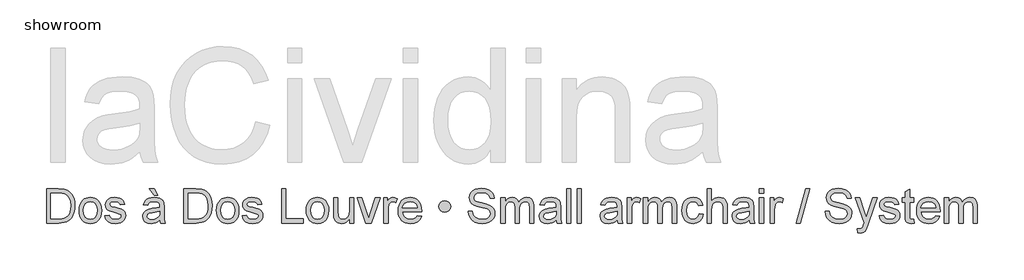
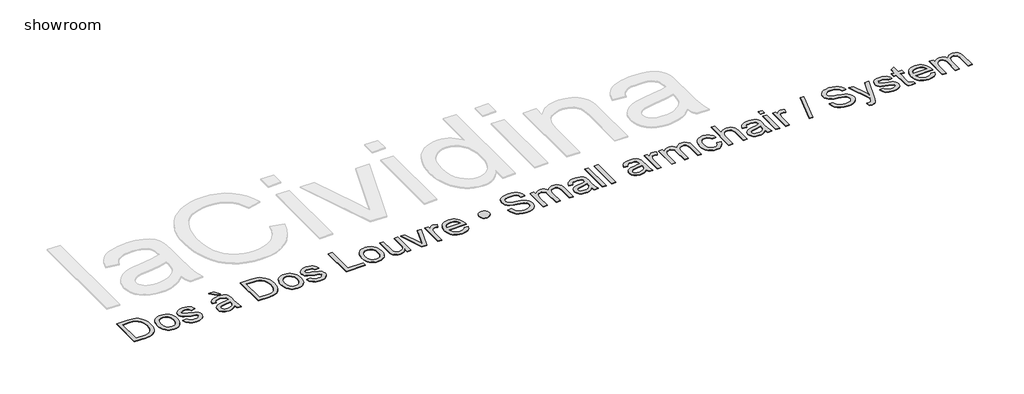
# One storey, part 2 of 2: 1 proxy.
"""IFC4 building model written with IfcOpenShell, lengths in millimetres."""

import ifcopenshell
import ifcopenshell.guid

model = None  # the IFC model being written
_history = None  # IfcOwnerHistory: only IFC2X3 demands one
_inside = {}  # id of a spatial element -> (the spatial element, [elements in it])
_under = {}  # id of a project, library or spatial element -> (it, [spatial elements below it])
_declared = {}  # id of a project -> (the project, [libraries it declares])
_typed = {}  # id of a type object -> (the type object, [elements of that type])
_made_of = {}  # id of a material, layer set ... -> (it, [elements and type objects made of it])


def new_model(schema):
    """Start an empty IFC model of exactly this schema.

    Asked for "IFC4X3", IfcOpenShell would pick the latest addendum, in which some entities
    have other attributes; the version numbers below select the first issue.
    IFC2X3 requires an IfcOwnerHistory on every rooted entity: one is made here for all.
    """
    global model, _history
    if schema == "IFC4X3":
        model = ifcopenshell.file(schema_version=(4, 3, 0, 0))
    else:
        model = ifcopenshell.file(schema=schema)
    _inside.clear()
    _under.clear()
    _declared.clear()
    _typed.clear()
    _made_of.clear()
    _history = None
    if model.schema == "IFC2X3":
        org = make("IfcOrganization", Name="unknown")
        user = make(
            "IfcPersonAndOrganization",
            ThePerson=make("IfcPerson", FamilyName="unknown"),
            TheOrganization=org,
        )
        app = make(
            "IfcApplication",
            ApplicationDeveloper=org,
            Version="unknown",
            ApplicationFullName="unknown",
            ApplicationIdentifier="unknown",
        )
        _history = make(
            "IfcOwnerHistory",
            OwningUser=user,
            OwningApplication=app,
            ChangeAction="ADDED",
            CreationDate=0,
        )
    return model


def make(cls, **values):
    """One entity of the class cls with the attributes given. An attribute that is None is left unset."""
    return model.create_entity(
        cls, **{name: value for name, value in values.items() if value is not None}
    )


def rooted(cls, **values):
    """An entity with a GlobalId (a new one), such as an element, a storey or a relation."""
    return make(cls, GlobalId=ifcopenshell.guid.new(), OwnerHistory=_history, **values)


def si_unit(unit_type, name, prefix=None):
    """IfcSIUnit, for example si_unit("LENGTHUNIT", "METRE", prefix="MILLI")."""
    return make("IfcSIUnit", UnitType=unit_type, Prefix=prefix, Name=name)


def assignment(units):
    """IfcUnitAssignment: the units of a project."""
    return None if units is None else make("IfcUnitAssignment", Units=units)


def point(xyz):
    """IfcCartesianPoint."""
    return None if xyz is None else make("IfcCartesianPoint", Coordinates=xyz)


def direction(xyz):
    """IfcDirection."""
    return None if xyz is None else make("IfcDirection", DirectionRatios=xyz)


def frame(location, z_axis=None, x_axis=None):
    """IfcAxis2Placement3D, a coordinate frame: its origin and axes. An axis left out is left unset."""
    return make(
        "IfcAxis2Placement3D",
        Location=point(location),
        Axis=direction(z_axis),
        RefDirection=direction(x_axis),
    )


def origin():
    """The frame at (0, 0, 0) with its axes left unset."""
    return frame((0.0, 0.0, 0.0))


def origin_with_axes():
    """The frame at (0, 0, 0) with the z axis (0, 0, 1) and the x axis (1, 0, 0) written out."""
    return frame((0.0, 0.0, 0.0), z_axis=(0.0, 0.0, 1.0), x_axis=(1.0, 0.0, 0.0))


def place(relative_to, where):
    """IfcLocalPlacement: puts the frame where relative to a parent placement (None: the world)."""
    return make(
        "IfcLocalPlacement", PlacementRelTo=relative_to, RelativePlacement=where
    )


def context(
    kind, dimensions, precision=None, world=None, true_north=None, identifier=None
):
    """IfcGeometricRepresentationContext, for example the 3D "Model" context."""
    return make(
        "IfcGeometricRepresentationContext",
        ContextIdentifier=identifier,
        ContextType=kind,
        CoordinateSpaceDimension=dimensions,
        Precision=precision,
        WorldCoordinateSystem=world,
        TrueNorth=true_north,
    )


def project(units=None, contexts=None):
    """IfcProject with its units and contexts."""
    return rooted(
        "IfcProject",
        Name="project",
        RepresentationContexts=contexts,
        UnitsInContext=assignment(units),
    )


def spatial(cls, under=None, at=None, **own):
    """A site, building, storey or space (cls), placed at a placement, below another one or the project."""
    s = rooted(cls, ObjectPlacement=at, **own)
    if under is not None:
        _under.setdefault(under.id(), (under, []))[1].append(s)
    return s


def polyline(points):
    """IfcPolyline through the points."""
    return make("IfcPolyline", Points=[point(p) for p in points])


def outline(outer, holes=None, kind="AREA"):
    """IfcArbitraryClosedProfileDef: a profile drawn as a closed curve; with holes, ...WithVoids."""
    if holes is None:
        return make("IfcArbitraryClosedProfileDef", ProfileType=kind, OuterCurve=outer)
    return make(
        "IfcArbitraryProfileDefWithVoids",
        ProfileType=kind,
        OuterCurve=outer,
        InnerCurves=holes,
    )


def extrude(swept, where, along, depth):
    """IfcExtrudedAreaSolid: the profile swept, set in the frame where, extruded along a direction by depth."""
    return make(
        "IfcExtrudedAreaSolid",
        SweptArea=swept,
        Position=where,
        ExtrudedDirection=direction(along),
        Depth=depth,
    )


def shape(context_of_items, identifier, shape_type, items):
    """IfcShapeRepresentation: the items that make up one representation, for example the "Body"."""
    return make(
        "IfcShapeRepresentation",
        ContextOfItems=context_of_items,
        RepresentationIdentifier=identifier,
        RepresentationType=shape_type,
        Items=items,
    )


def made_of(thing, what):
    """Note that an element or type object is made of a material, layer set ...; save() writes the relation."""
    if what is not None:
        _made_of.setdefault(what.id(), (what, []))[1].append(thing)
    return thing


def element(
    cls,
    number,
    at=None,
    inside=None,
    cuts=None,
    type_object=None,
    material=None,
    context=None,
    identifier="Body",
    shape_type=None,
    held_by="IfcProductDefinitionShape",
    body=None,
    shapes=None,
    **own,
):
    """One element of the class cls, such as IfcWall. Its Tag is "e" and its number.

    at: its placement. inside: the storey or other place that contains it. cuts: it is an
    opening in that element (IfcRelVoidsElement). A single representation is given by context,
    identifier, shape_type and body (its items); several are given by shapes. held_by: the class
    of the entity that holds the representations. save() writes the other relations.
    """
    e = rooted(cls, Tag="e%d" % number, ObjectPlacement=at, **own)
    if body is not None:
        shapes = [shape(context, identifier, shape_type, body)]
    if shapes is not None:
        e.Representation = make(held_by, Representations=shapes)
    if inside is not None:
        _inside.setdefault(inside.id(), (inside, []))[1].append(e)
    if cuts is not None:
        rooted(
            "IfcRelVoidsElement", RelatingBuildingElement=cuts, RelatedOpeningElement=e
        )
    if type_object is not None:
        _typed.setdefault(type_object.id(), (type_object, []))[1].append(e)
    return made_of(e, material)


def aggregate(whole, parts):
    """IfcRelAggregates: a whole, such as a stair, and the parts it consists of."""
    return rooted("IfcRelAggregates", RelatingObject=whole, RelatedObjects=parts)


def save(model, path):
    """Write the relations noted so far, then the file.

    IfcRelAggregates (storeys below a building ...), IfcRelContainedInSpatialStructure (elements
    in a storey), IfcRelDefinesByType, IfcRelAssociatesMaterial and IfcRelDeclares: one each for
    every whole, place, type object, material and project.
    """
    for whole, parts in _under.values():
        aggregate(whole, parts)
    for where, things in _inside.values():
        rooted(
            "IfcRelContainedInSpatialStructure",
            RelatedElements=things,
            RelatingStructure=where,
        )
    for kind, things in _typed.values():
        rooted("IfcRelDefinesByType", RelatedObjects=things, RelatingType=kind)
    for what, things in _made_of.values():
        rooted("IfcRelAssociatesMaterial", RelatedObjects=things, RelatingMaterial=what)
    for by, libraries in _declared.values():
        rooted("IfcRelDeclares", RelatingContext=by, RelatedDefinitions=libraries)
    model.write(path)


model = new_model("IFC4")

# Units and contexts
model_context = context("Model", 3, world=origin())
ifc_project = project(units=[si_unit("LENGTHUNIT", "METRE", prefix="MILLI")], contexts=[model_context])

# Site, building, storey
site = spatial("IfcSite", under=ifc_project)
building = spatial("IfcBuilding", under=site)
storey = spatial("IfcBuildingStorey", under=building, Name="showroom", Elevation=0.0)

# Proxy
placement = place(None, origin())
element("IfcBuildingElementProxy", 1, Name="300mm Arial", ObjectType="300mm Arial", at=placement, inside=storey, context=model_context, shape_type="SweptSolid", body=[
    extrude(outline(polyline([(-1990.3620976, 4160.1020807), (-1990.3620976, 4461.4710111), (-1886.3986458, 4461.4710111), (-1832.6142981, 4457.1300036), (-1808.5916038, 4448.7606882), (-1788.3213059, 4435.5721187), (-1767.4807909, 4412.6162822), (-1752.6367524, 4384.0686393), (-1743.7524022, 4350.4810132), (-1740.7909521, 4312.4052267), (-1742.795909, 4280.0592022), (-1748.8107796, 4251.5943329), (-1757.9710413, 4227.3601064), (-1769.4121713, 4207.7060108), (-1782.5823468, 4192.1905877), (-1796.9297446, 4180.3723786), (-1813.4016609, 4171.6075901), (-1832.9453919, 4165.2524286), (-1881.3954507, 4160.1020807), (-1990.3620976, 4160.1020807)]), holes=[polyline([(-1952.6909813, 4197.773197), (-1886.0307638, 4197.773197), (-1858.4580083, 4199.1343604), (-1837.5439168, 4203.2178505), (-1821.7617792, 4209.7845441), (-1809.5848852, 4218.5953179), (-1796.4974832, 4234.9016873), (-1786.6658369, 4256.0089168), (-1780.5130105, 4282.0089768), (-1778.4620684, 4312.9938379), (-1782.4811792, 4354.0494685), (-1794.5385116, 4384.3629449), (-1812.3531972, 4405.1850659), (-1833.6443677, 4417.7666301), (-1855.3126172, 4422.2915786), (-1887.0608334, 4423.7998948), (-1952.6909813, 4423.7998948), (-1952.6909813, 4197.773197)])]), origin_with_axes(), (0.0, 0.0, 1.0), 5.0),
    extrude(outline(polyline([(-1703.1198358, 4270.7609848), (-1701.0826893, 4299.4235908), (-1694.9712496, 4324.1222682), (-1684.7855169, 4344.8570172), (-1670.525491, 4361.6278376), (-1656.1688962, 4372.3469993), (-1640.3223792, 4380.0035433), (-1622.9859402, 4384.5974697), (-1604.1595791, 4386.1287785), (-1583.3765456, 4384.2640766), (-1564.5846735, 4378.6699711), (-1547.7839626, 4369.3464617), (-1532.974413, 4356.2935487), (-1520.8871902, 4339.9526903), (-1512.2534597, 4320.765345), (-1507.0732213, 4298.7315128), (-1505.3464752, 4273.8511936), (-1508.3998958, 4235.7938012), (-1517.5601574, 4206.8230941), (-1532.5605458, 4185.1272534), (-1553.1343464, 4168.8944604), (-1577.5709079, 4158.7685084), (-1604.1595791, 4155.3931911), (-1625.2461152, 4157.2509952), (-1644.2127313, 4162.8244074), (-1661.0594274, 4172.1134278), (-1675.7862036, 4185.1180563), (-1687.7446677, 4201.6175638), (-1696.2864277, 4221.3912211), (-1701.4114838, 4244.4390281), (-1703.1198358, 4270.7609848)]), holes=[polyline([(-1665.4487195, 4270.8345612), (-1661.0893179, 4236.7410973), (-1648.0111129, 4212.4516886), (-1628.3294262, 4197.9111527), (-1604.1595791, 4193.0643074), (-1580.1000966, 4197.9387439), (-1560.4551981, 4212.5620532), (-1547.3769931, 4237.1733587), (-1543.0175915, 4272.0117836), (-1547.4045843, 4305.1119661), (-1560.5655627, 4329.0702811), (-1580.2380524, 4343.6108169), (-1604.1595791, 4348.4576622), (-1628.3294262, 4343.629211), (-1648.0111129, 4329.1438575), (-1661.0893179, 4304.909631), (-1665.4487195, 4270.8345612)])]), origin_with_axes(), (0.0, 0.0, 1.0), 5.0),
    extrude(outline(polyline([(-1477.093138, 4226.0265342), (-1439.4220217, 4230.7354237), (-1433.4807274, 4214.6221924), (-1421.9844151, 4202.7763921), (-1404.8595082, 4195.4923286), (-1382.0324304, 4193.0643074), (-1359.4812641, 4195.2899935), (-1343.6255501, 4201.9670517), (-1334.2445592, 4211.6423482), (-1331.1175623, 4222.862749), (-1334.2629533, 4232.4644691), (-1343.6991265, 4239.7853208), (-1382.4738888, 4250.5274751), (-1439.2012925, 4268.958363), (-1453.5578873, 4278.2197923), (-1463.9597507, 4290.4794598), (-1470.278124, 4304.9556163), (-1472.3842484, 4320.8665126), (-1470.6919912, 4335.4622307), (-1465.6152197, 4348.9359088), (-1457.6137863, 4360.7541179), (-1447.1475436, 4370.3834291), (-1423.1984257, 4381.5302536), (-1390.7880219, 4386.1287785), (-1366.2686869, 4384.2801715), (-1344.9499253, 4378.7343504), (-1327.8066243, 4370.0339412), (-1315.8136713, 4358.7215699), (-1307.8674202, 4343.9603048), (-1302.864225, 4324.9132145), (-1340.5353414, 4320.204325), (-1345.2902161, 4332.0593223), (-1354.6987982, 4340.9896577), (-1368.8530579, 4346.5906611), (-1387.8449659, 4348.4576622), (-1409.4764273, 4346.6734345), (-1423.8974015, 4341.3207515), (-1432.0091995, 4333.5952296), (-1434.7131321, 4324.6924853), (-1430.2249718, 4313.7296019), (-1416.1718796, 4305.4154688), (-1383.7246876, 4297.3956413), (-1328.4320237, 4279.6637291), (-1313.8271085, 4271.1840491), (-1302.7538605, 4259.5773722), (-1295.7732996, 4244.8069101), (-1293.446446, 4226.8358746), (-1296.1779698, 4208.2578338), (-1304.3725412, 4190.7834391), (-1317.7174606, 4175.7830507), (-1335.9000282, 4164.6270292), (-1357.8625833, 4157.7016507), (-1382.5474652, 4155.3931911), (-1420.5312812, 4159.8445633), (-1448.2511895, 4173.1986797), (-1466.7556539, 4195.3083876), (-1477.093138, 4226.0265342)])), origin_with_axes(), (0.0, 0.0, 1.0), 5.0),
    extrude(outline(polyline([(-1010.9130737, 4404.9643367), (-1039.1664109, 4404.9643367), (-1086.2553063, 4461.4710111), (-1039.1664109, 4461.4710111), (-1010.9130737, 4404.9643367)])), origin_with_axes(), (0.0, 0.0, 1.0), 5.0),
    extrude(outline(polyline([(-992.0775155, 4188.3554179), (-1010.0761421, 4172.9227682), (-1028.6081976, 4162.8244074), (-1048.0967463, 4157.2509952), (-1068.9648525, 4155.3931911), (-1100.4463543, 4159.8629574), (-1123.6689052, 4173.2722561), (-1137.9887119, 4193.6345245), (-1142.7619807, 4218.9631999), (-1140.959359, 4234.5797906), (-1135.5514936, 4248.7616415), (-1127.2097694, 4260.9017474), (-1116.6055709, 4270.3931028), (-1090.2284318, 4282.7539379), (-1057.6340871, 4288.4193206), (-1019.1168422, 4294.3790089), (-992.2982447, 4301.3687668), (-992.0775155, 4309.7564763), (-994.6710836, 4326.5686835), (-1002.4517878, 4337.5683551), (-1019.8526062, 4345.7353354), (-1044.0960296, 4348.4576622), (-1066.5368313, 4346.6458434), (-1082.2086043, 4341.2103869), (-1092.8955763, 4331.1580114), (-1100.3819749, 4315.4954354), (-1138.0530912, 4320.204325), (-1131.5139887, 4340.8057167), (-1121.7559188, 4356.9925245), (-1107.8683735, 4369.3717536), (-1088.9408449, 4378.5504094), (-1065.7918703, 4384.2341862), (-1039.2399873, 4386.1287785), (-1013.7733562, 4384.4549154), (-993.5858317, 4379.4333262), (-978.3647142, 4371.8825482), (-967.7973038, 4362.621119), (-960.7891518, 4351.1707919), (-956.2458092, 4337.0533204), (-954.4063992, 4304.0910936), (-954.4063992, 4257.2229274), (-952.4934128, 4191.7767205), (-944.9886201, 4160.1020807), (-982.6597364, 4160.1020807), (-992.0775155, 4188.3554179)]), holes=[polyline([(-992.0775155, 4263.6976505), (-1052.8516211, 4252.1461559), (-1085.2620249, 4246.0393147), (-1099.9405165, 4236.1065009), (-1105.0908644, 4221.6119503), (-1102.2857642, 4210.4099435), (-1093.8704636, 4201.2312877), (-1080.0289035, 4195.1060525), (-1060.945025, 4193.0643074), (-1040.7115153, 4195.3175847), (-1022.8324503, 4202.0774163), (-1008.3378997, 4212.0378213), (-998.257933, 4223.8928186), (-993.7881668, 4236.1065009), (-992.2982447, 4253.0290727), (-992.0775155, 4263.6976505)])]), origin_with_axes(), (0.0, 0.0, 1.0), 5.0),
    extrude(outline(polyline([(-780.1774863, 4160.1020807), (-780.1774863, 4461.4710111), (-676.2140345, 4461.4710111), (-622.4296868, 4457.1300036), (-598.4069925, 4448.7606882), (-578.1366946, 4435.5721187), (-557.2961795, 4412.6162822), (-542.452141, 4384.0686393), (-533.5677908, 4350.4810132), (-530.6063408, 4312.4052267), (-532.6112976, 4280.0592022), (-538.6261683, 4251.5943329), (-547.7864299, 4227.3601064), (-559.22756, 4207.7060108), (-572.3977354, 4192.1905877), (-586.7451332, 4180.3723786), (-603.2170496, 4171.6075901), (-622.7607806, 4165.2524286), (-671.2108393, 4160.1020807), (-780.1774863, 4160.1020807)]), holes=[polyline([(-742.50637, 4197.773197), (-675.8461525, 4197.773197), (-648.2733969, 4199.1343604), (-627.3593055, 4203.2178505), (-611.5771679, 4209.7845441), (-599.4002739, 4218.5953179), (-586.3128719, 4234.9016873), (-576.4812256, 4256.0089168), (-570.3283992, 4282.0089768), (-568.2774571, 4312.9938379), (-572.2965679, 4354.0494685), (-584.3539003, 4384.3629449), (-602.1685859, 4405.1850659), (-623.4597564, 4417.7666301), (-645.1280059, 4422.2915786), (-676.8762221, 4423.7998948), (-742.50637, 4423.7998948), (-742.50637, 4197.773197)])]), origin_with_axes(), (0.0, 0.0, 1.0), 5.0),
    extrude(outline(polyline([(-492.9352245, 4270.7609848), (-490.8980779, 4299.4235908), (-484.7866383, 4324.1222682), (-474.6009055, 4344.8570172), (-460.3408797, 4361.6278376), (-445.9842848, 4372.3469993), (-430.1377679, 4380.0035433), (-412.8013289, 4384.5974697), (-393.9749678, 4386.1287785), (-373.1919343, 4384.2640766), (-354.4000621, 4378.6699711), (-337.5993513, 4369.3464617), (-322.7898017, 4356.2935487), (-310.7025789, 4339.9526903), (-302.0688483, 4320.765345), (-296.88861, 4298.7315128), (-295.1618639, 4273.8511936), (-298.2152844, 4235.7938012), (-307.3755461, 4206.8230941), (-322.3759345, 4185.1272534), (-342.949735, 4168.8944604), (-367.3862966, 4158.7685084), (-393.9749678, 4155.3931911), (-415.0615039, 4157.2509952), (-434.02812, 4162.8244074), (-450.8748161, 4172.1134278), (-465.6015922, 4185.1180563), (-477.5600563, 4201.6175638), (-486.1018164, 4221.3912211), (-491.2268725, 4244.4390281), (-492.9352245, 4270.7609848)]), holes=[polyline([(-455.2641082, 4270.8345612), (-450.9047065, 4236.7410973), (-437.8265016, 4212.4516886), (-418.1448148, 4197.9111527), (-393.9749678, 4193.0643074), (-369.9154853, 4197.9387439), (-350.2705867, 4212.5620532), (-337.1923818, 4237.1733587), (-332.8329802, 4272.0117836), (-337.219973, 4305.1119661), (-350.3809513, 4329.0702811), (-370.053441, 4343.6108169), (-393.9749678, 4348.4576622), (-418.1448148, 4343.629211), (-437.8265016, 4329.1438575), (-450.9047065, 4304.909631), (-455.2641082, 4270.8345612)])]), origin_with_axes(), (0.0, 0.0, 1.0), 5.0),
    extrude(outline(polyline([(-266.9085266, 4226.0265342), (-229.2374103, 4230.7354237), (-223.2961161, 4214.6221924), (-211.7998038, 4202.7763921), (-194.6748969, 4195.4923286), (-171.8478191, 4193.0643074), (-149.2966528, 4195.2899935), (-133.4409388, 4201.9670517), (-124.0599479, 4211.6423482), (-120.9329509, 4222.862749), (-124.078342, 4232.4644691), (-133.5145152, 4239.7853208), (-172.2892775, 4250.5274751), (-229.0166811, 4268.958363), (-243.373276, 4278.2197923), (-253.7751394, 4290.4794598), (-260.0935127, 4304.9556163), (-262.1996371, 4320.8665126), (-260.5073799, 4335.4622307), (-255.4306084, 4348.9359088), (-247.429175, 4360.7541179), (-236.9629322, 4370.3834291), (-213.0138143, 4381.5302536), (-180.6034106, 4386.1287785), (-156.0840756, 4384.2801715), (-134.765314, 4378.7343504), (-117.622013, 4370.0339412), (-105.6290599, 4358.7215699), (-97.6828088, 4343.9603048), (-92.6796137, 4324.9132145), (-130.35073, 4320.204325), (-135.1056048, 4332.0593223), (-144.5141868, 4340.9896577), (-158.6684466, 4346.5906611), (-177.6603546, 4348.4576622), (-199.2918159, 4346.6734345), (-213.7127901, 4341.3207515), (-221.8245881, 4333.5952296), (-224.5285208, 4324.6924853), (-220.0403604, 4313.7296019), (-205.9872682, 4305.4154688), (-173.5400763, 4297.3956413), (-118.2474124, 4279.6637291), (-103.6424972, 4271.1840491), (-92.5692491, 4259.5773722), (-85.5886883, 4244.8069101), (-83.2618346, 4226.8358746), (-85.9933585, 4208.2578338), (-94.1879299, 4190.7834391), (-107.5328493, 4175.7830507), (-125.7154169, 4164.6270292), (-147.677972, 4157.7016507), (-172.3628539, 4155.3931911), (-210.3466699, 4159.8445633), (-238.0665782, 4173.1986797), (-256.5710426, 4195.3083876), (-266.9085266, 4226.0265342)])), origin_with_axes(), (0.0, 0.0, 1.0), 5.0),
    extrude(outline(polyline([(81.5492992, 4160.1020807), (81.5492992, 4461.4710111), (119.2204155, 4461.4710111), (119.2204155, 4197.773197), (269.9048807, 4197.773197), (269.9048807, 4160.1020807), (81.5492992, 4160.1020807)])), origin_with_axes(), (0.0, 0.0, 1.0), 5.0),
    extrude(outline(polyline([(298.158218, 4270.7609848), (300.1953645, 4299.4235908), (306.3068042, 4324.1222682), (316.4925369, 4344.8570172), (330.7525627, 4361.6278376), (345.1091576, 4372.3469993), (360.9556745, 4380.0035433), (378.2921136, 4384.5974697), (397.1184747, 4386.1287785), (417.9015081, 4384.2640766), (436.6933803, 4378.6699711), (453.4940912, 4369.3464617), (468.3036407, 4356.2935487), (480.3908635, 4339.9526903), (489.0245941, 4320.765345), (494.2048325, 4298.7315128), (495.9315786, 4273.8511936), (492.878158, 4235.7938012), (483.7178963, 4206.8230941), (468.717508, 4185.1272534), (448.1437074, 4168.8944604), (423.7071459, 4158.7685084), (397.1184747, 4155.3931911), (376.0319386, 4157.2509952), (357.0653224, 4162.8244074), (340.2186263, 4172.1134278), (325.4918502, 4185.1180563), (313.5333861, 4201.6175638), (304.991626, 4221.3912211), (299.86657, 4244.4390281), (298.158218, 4270.7609848)]), holes=[polyline([(335.8293343, 4270.8345612), (340.1887359, 4236.7410973), (353.2669408, 4212.4516886), (372.9486276, 4197.9111527), (397.1184747, 4193.0643074), (421.1779571, 4197.9387439), (440.8228557, 4212.5620532), (453.9010606, 4237.1733587), (458.2604623, 4272.0117836), (453.8734695, 4305.1119661), (440.7124911, 4329.0702811), (421.0400014, 4343.6108169), (397.1184747, 4348.4576622), (372.9486276, 4343.629211), (353.2669408, 4329.1438575), (340.1887359, 4304.909631), (335.8293343, 4270.8345612)])]), origin_with_axes(), (0.0, 0.0, 1.0), 5.0),
    extrude(outline(polyline([(679.5782706, 4160.1020807), (679.5782706, 4198.141079), (665.9482426, 4179.438878), (650.0741345, 4166.0801631), (631.9559463, 4158.0649341), (611.5936779, 4155.3931911), (593.2455633, 4157.2693893), (576.1666417, 4162.8979838), (561.837638, 4171.3592697), (551.7392772, 4181.733542), (540.5188764, 4209.4718444), (538.3115844, 4244.4942104), (538.3115844, 4381.419889), (575.9827007, 4381.419889), (575.9827007, 4262.2261225), (578.2635691, 4223.8192422), (583.7542079, 4211.0077518), (593.1627899, 4201.2680759), (605.8639158, 4195.1152496), (621.2321861, 4193.0643074), (637.4833733, 4195.1612348), (652.6860967, 4201.4520169), (665.2216757, 4211.3572396), (673.4714294, 4224.2974888), (678.0515603, 4242.0202039), (679.5782706, 4266.2728245), (679.5782706, 4381.419889), (717.2493869, 4381.419889), (717.2493869, 4160.1020807), (679.5782706, 4160.1020807)])), origin_with_axes(), (0.0, 0.0, 1.0), 5.0),
    extrude(outline(polyline([(823.3465543, 4160.1020807), (745.5027241, 4381.419889), (785.3811324, 4381.419889), (832.5436042, 4248.8352179), (846.7438492, 4204.2479201), (860.6497886, 4246.3336203), (908.106566, 4381.419889), (947.9849742, 4381.419889), (871.0976372, 4160.1020807), (823.3465543, 4160.1020807)])), origin_with_axes(), (0.0, 0.0, 1.0), 5.0),
    extrude(outline(polyline([(980.947201, 4160.1020807), (980.947201, 4381.419889), (1013.9094278, 4381.419889), (1013.9094278, 4348.6783914), (1026.0863218, 4367.6611024), (1037.3067227, 4378.844715), (1048.5639117, 4384.3077626), (1060.8511704, 4386.1287785), (1079.6131521, 4383.2225107), (1098.6694395, 4374.5037075), (1086.0878752, 4340.7321403), (1072.8441234, 4346.5262817), (1059.6003716, 4348.4576622), (1048.3523796, 4346.5998581), (1038.3000041, 4341.0264459), (1030.179009, 4332.1604898), (1024.7251584, 4320.4250542), (1020.1450276, 4299.382204), (1018.6183173, 4276.4263675), (1018.6183173, 4160.1020807), (980.947201, 4160.1020807)])), origin_with_axes(), (0.0, 0.0, 1.0), 5.0),
    extrude(outline(polyline([(1277.1657835, 4226.0265342), (1314.1011358, 4221.3176447), (1300.7930047, 4193.4873717), (1279.5570165, 4172.6836449), (1250.8714179, 4159.7158046), (1215.2144555, 4155.3931911), (1191.8401533, 4157.257893), (1171.0134338, 4162.8519986), (1152.7342972, 4172.1755079), (1137.0027434, 4185.2284209), (1124.3522013, 4201.6474542), (1115.3160997, 4221.0693243), (1109.8944388, 4243.4940312), (1108.0872185, 4268.9215748), (1109.9128329, 4295.2113419), (1115.3896761, 4318.3833091), (1124.5177482, 4338.4374764), (1137.297049, 4355.3738437), (1152.9872161, 4368.8291277), (1170.8478869, 4378.4400448), (1190.8790616, 4384.2065951), (1213.08074, 4386.1287785), (1234.5673477, 4384.2111936), (1253.9984149, 4378.4584389), (1271.3739414, 4368.8705144), (1286.6939272, 4355.4474201), (1299.1996158, 4338.547841), (1308.1322505, 4318.5304619), (1313.4918313, 4295.3952829), (1315.2783582, 4269.142304), (1315.057629, 4258.988761), (1145.7583348, 4258.988761), (1152.2790432, 4230.790606), (1167.4265844, 4210.0604556), (1189.2879719, 4197.3133445), (1215.9502195, 4193.0643074), (1235.9997883, 4195.0324761), (1252.8855718, 4200.9369821), (1266.6075703, 4211.1457075), (1277.1657835, 4226.0265342)]), holes=[polyline([(1145.7583348, 4296.6598773), (1277.6072419, 4296.6598773), (1272.5120763, 4316.5622932), (1262.5240801, 4330.7993264), (1240.561525, 4344.0430783), (1212.9335872, 4348.4576622), (1187.5405325, 4344.9351921), (1166.5436676, 4334.3677818), (1151.9479494, 4317.8958655), (1145.7583348, 4296.6598773)])]), origin_with_axes(), (0.0, 0.0, 1.0), 5.0),
    extrude(outline(polyline([(1465.9628235, 4306.1512328), (1469.7704021, 4326.0444516), (1481.1931381, 4342.7554913), (1497.9317688, 4354.0954538), (1517.687032, 4357.8754413), (1537.5526597, 4354.0954538), (1554.3280787, 4342.7554913), (1565.7508146, 4326.0444516), (1569.5583933, 4306.1512328), (1565.7508146, 4286.285605), (1554.3280787, 4269.510186), (1537.5526597, 4258.0874501), (1517.687032, 4254.2798714), (1497.9317688, 4258.0874501), (1481.1931381, 4269.510186), (1469.7704021, 4286.285605), (1465.9628235, 4306.1512328)])), origin_with_axes(), (0.0, 0.0, 1.0), 5.0),
    extrude(outline(polyline([(1724.9517481, 4263.6976505), (1762.6228644, 4263.6976505), (1766.9454778, 4242.7927561), (1774.7629702, 4225.989746), (1786.9582583, 4212.6540237), (1804.414259, 4202.1509927), (1825.7514147, 4195.3359788), (1849.590168, 4193.0643074), (1870.5778358, 4194.7841558), (1888.9535415, 4199.9437007), (1903.8435653, 4208.110681), (1914.3741874, 4218.8528353), (1920.6373783, 4231.1860792), (1922.7251087, 4244.1263284), (1921.1616102, 4256.7354838), (1916.4711147, 4267.6339879), (1906.9429711, 4276.9322053), (1890.8665279, 4284.7405006), (1836.0153224, 4299.1246866), (1800.0088721, 4308.6436333), (1776.9702622, 4317.7027274), (1758.2174775, 4330.3762621), (1744.9277404, 4345.7353354), (1737.0090804, 4363.4488535), (1734.3695271, 4383.1857225), (1737.6344798, 4405.2494452), (1747.429338, 4425.8232458), (1763.4965841, 4443.2608524), (1785.5787009, 4455.915993), (1812.0845986, 4463.6139237), (1841.4231877, 4466.1799007), (1873.2081921, 4463.4943621), (1901.0200709, 4455.4377464), (1923.8655428, 4442.1756005), (1940.7513264, 4423.8734712), (1951.4382984, 4401.6717928), (1955.6873354, 4376.7109994), (1918.0162191, 4376.7109994), (1911.1000376, 4399.1885893), (1896.6790634, 4415.4121853), (1874.1462912, 4425.2346346), (1842.8947157, 4428.5087844), (1810.9073762, 4425.2714228), (1788.9632152, 4415.5593381), (1776.2712864, 4401.2671226), (1772.0406434, 4384.2893685), (1775.0388817, 4369.813212), (1784.0335965, 4358.1697469), (1805.2971758, 4347.7586864), (1845.5434661, 4337.1268968), (1887.0773433, 4327.028536), (1912.2036836, 4318.2177622), (1933.6787951, 4304.5509461), (1948.6607893, 4287.6835566), (1957.4623661, 4267.7995348), (1960.396225, 4245.0828216), (1957.0209077, 4221.8602706), (1946.8949557, 4200.0172771), (1930.4322365, 4181.2185072), (1908.0466171, 4167.1286268), (1881.1268521, 4158.32705), (1851.061696, 4155.3931911), (1814.1539348, 4158.5569763), (1783.7760791, 4168.0483318), (1759.5786409, 4183.9040458), (1741.2121322, 4206.1609065), (1729.4215143, 4233.2738095), (1724.9517481, 4263.6976505)])), origin_with_axes(), (0.0, 0.0, 1.0), 5.0),
    extrude(outline(polyline([(2012.1940099, 4160.1020807), (2012.1940099, 4381.419889), (2049.8651262, 4381.419889), (2049.8651262, 4344.9995714), (2061.1958916, 4361.7290052), (2075.7640187, 4374.8348013), (2093.0728665, 4383.3052842), (2112.6257946, 4386.1287785), (2133.5766742, 4383.2501019), (2150.3704873, 4374.6140721), (2162.9152633, 4360.7909061), (2171.1190318, 4342.3508211), (2184.8502273, 4361.5036775), (2200.5128032, 4375.1842892), (2218.1067596, 4383.3926562), (2237.6320965, 4386.1287785), (2265.9498131, 4381.5762388), (2286.8914957, 4367.9186197), (2299.8317449, 4344.7880393), (2304.1451613, 4311.8166155), (2304.1451613, 4160.1020807), (2266.474045, 4160.1020807), (2266.474045, 4295.6298077), (2262.979166, 4327.0837183), (2258.0679414, 4335.7565363), (2250.3240254, 4342.5715503), (2240.3636203, 4346.9861342), (2228.8029286, 4348.4576622), (2208.394675, 4344.6868718), (2191.7572117, 4333.3745004), (2180.6931607, 4313.747996), (2177.0051437, 4285.0348062), (2177.0051437, 4160.1020807), (2139.3340274, 4160.1020807), (2139.3340274, 4299.8236624), (2137.1543266, 4321.12403), (2130.6152241, 4336.3175564), (2119.1097147, 4345.4226357), (2102.0307931, 4348.4576622), (2087.5178484, 4346.4343112), (2074.1453379, 4340.3642583), (2063.108878, 4330.3946562), (2055.6040853, 4316.6726578), (2051.299866, 4297.6347646), (2049.8651262, 4271.717478), (2049.8651262, 4160.1020807), (2012.1940099, 4160.1020807)])), origin_with_axes(), (0.0, 0.0, 1.0), 5.0),
    extrude(outline(polyline([(2501.9185219, 4188.3554179), (2483.9198953, 4172.9227682), (2465.3878397, 4162.8244074), (2445.8992911, 4157.2509952), (2425.0311849, 4155.3931911), (2393.5496831, 4159.8629574), (2370.3271322, 4173.2722561), (2356.0073255, 4193.6345245), (2351.2340566, 4218.9631999), (2353.0366784, 4234.5797906), (2358.4445437, 4248.7616415), (2366.786268, 4260.9017474), (2377.3904665, 4270.3931028), (2403.7676056, 4282.7539379), (2436.3619503, 4288.4193206), (2474.8791952, 4294.3790089), (2501.6977927, 4301.3687668), (2501.9185219, 4309.7564763), (2499.3249538, 4326.5686835), (2491.5442496, 4337.5683551), (2474.1434312, 4345.7353354), (2449.9000077, 4348.4576622), (2427.459206, 4346.6458434), (2411.787433, 4341.2103869), (2401.1004611, 4331.1580114), (2393.6140625, 4315.4954354), (2355.9429462, 4320.204325), (2362.4820486, 4340.8057167), (2372.2401186, 4356.9925245), (2386.1276639, 4369.3717536), (2405.0551925, 4378.5504094), (2428.2041671, 4384.2341862), (2454.7560501, 4386.1287785), (2480.2226812, 4384.4549154), (2500.4102057, 4379.4333262), (2515.6313232, 4371.8825482), (2526.1987335, 4362.621119), (2533.2068856, 4351.1707919), (2537.7502282, 4337.0533204), (2539.5896382, 4304.0910936), (2539.5896382, 4257.2229274), (2541.5026245, 4191.7767205), (2549.0074173, 4160.1020807), (2511.3363009, 4160.1020807), (2501.9185219, 4188.3554179)]), holes=[polyline([(2501.9185219, 4263.6976505), (2441.1444163, 4252.1461559), (2408.7340125, 4246.0393147), (2394.0555209, 4236.1065009), (2388.9051729, 4221.6119503), (2391.7102732, 4210.4099435), (2400.1255738, 4201.2312877), (2413.9671339, 4195.1060525), (2433.0510124, 4193.0643074), (2453.2845221, 4195.3175847), (2471.1635871, 4202.0774163), (2485.6581377, 4212.0378213), (2495.7381043, 4223.8928186), (2500.2078706, 4236.1065009), (2501.6977927, 4253.0290727), (2501.9185219, 4263.6976505)])]), origin_with_axes(), (0.0, 0.0, 1.0), 5.0),
    extrude(outline(polyline([(2591.3874231, 4160.1020807), (2591.3874231, 4461.4710111), (2629.0585394, 4461.4710111), (2629.0585394, 4160.1020807), (2591.3874231, 4160.1020807)])), origin_with_axes(), (0.0, 0.0, 1.0), 5.0),
    extrude(outline(polyline([(2685.5652139, 4160.1020807), (2685.5652139, 4461.4710111), (2723.2363302, 4461.4710111), (2723.2363302, 4160.1020807), (2685.5652139, 4160.1020807)])), origin_with_axes(), (0.0, 0.0, 1.0), 5.0),
    extrude(outline(polyline([(3038.7319292, 4188.3554179), (3020.7333026, 4172.9227682), (3002.2012471, 4162.8244074), (2982.7126984, 4157.2509952), (2961.8445922, 4155.3931911), (2930.3630905, 4159.8629574), (2907.1405396, 4173.2722561), (2892.8207329, 4193.6345245), (2888.047464, 4218.9631999), (2889.8500858, 4234.5797906), (2895.2579511, 4248.7616415), (2903.5996754, 4260.9017474), (2914.2038739, 4270.3931028), (2940.5810129, 4282.7539379), (2973.1753577, 4288.4193206), (3011.6926026, 4294.3790089), (3038.5112, 4301.3687668), (3038.7319292, 4309.7564763), (3036.1383612, 4326.5686835), (3028.357657, 4337.5683551), (3010.9568386, 4345.7353354), (2986.7134151, 4348.4576622), (2964.2726134, 4346.6458434), (2948.6008404, 4341.2103869), (2937.9138685, 4331.1580114), (2930.4274698, 4315.4954354), (2892.7563535, 4320.204325), (2899.295456, 4340.8057167), (2909.0535259, 4356.9925245), (2922.9410712, 4369.3717536), (2941.8685999, 4378.5504094), (2965.0175744, 4384.2341862), (2991.5694574, 4386.1287785), (3017.0360886, 4384.4549154), (3037.223613, 4379.4333262), (3052.4447306, 4371.8825482), (3063.0121409, 4362.621119), (3070.0202929, 4351.1707919), (3074.5636356, 4337.0533204), (3076.4030455, 4304.0910936), (3076.4030455, 4257.2229274), (3078.3160319, 4191.7767205), (3085.8208246, 4160.1020807), (3048.1497083, 4160.1020807), (3038.7319292, 4188.3554179)]), holes=[polyline([(3038.7319292, 4263.6976505), (2977.9578236, 4252.1461559), (2945.5474199, 4246.0393147), (2930.8689282, 4236.1065009), (2925.7185803, 4221.6119503), (2928.5236805, 4210.4099435), (2936.9389812, 4201.2312877), (2950.7805412, 4195.1060525), (2969.8644197, 4193.0643074), (2990.0979295, 4195.3175847), (3007.9769944, 4202.0774163), (3022.471545, 4212.0378213), (3032.5515117, 4223.8928186), (3037.021278, 4236.1065009), (3038.5112, 4253.0290727), (3038.7319292, 4263.6976505)])]), origin_with_axes(), (0.0, 0.0, 1.0), 5.0),
    extrude(outline(polyline([(3128.2008305, 4160.1020807), (3128.2008305, 4381.419889), (3161.1630572, 4381.419889), (3161.1630572, 4348.6783914), (3173.3399513, 4367.6611024), (3184.5603521, 4378.844715), (3195.8175412, 4384.3077626), (3208.1047998, 4386.1287785), (3226.8667816, 4383.2225107), (3245.9230689, 4374.5037075), (3233.3415047, 4340.7321403), (3220.0977529, 4346.5262817), (3206.854001, 4348.4576622), (3195.606009, 4346.5998581), (3185.5536335, 4341.0264459), (3177.4326385, 4332.1604898), (3171.9787879, 4320.4250542), (3167.398657, 4299.382204), (3165.8719468, 4276.4263675), (3165.8719468, 4160.1020807), (3128.2008305, 4160.1020807)])), origin_with_axes(), (0.0, 0.0, 1.0), 5.0),
    extrude(outline(polyline([(3269.4675166, 4160.1020807), (3269.4675166, 4381.419889), (3307.1386329, 4381.419889), (3307.1386329, 4344.9995714), (3318.4693984, 4361.7290052), (3333.0375254, 4374.8348013), (3350.3463732, 4383.3052842), (3369.8993013, 4386.1287785), (3390.8501809, 4383.2501019), (3407.643994, 4374.6140721), (3420.18877, 4360.7909061), (3428.3925385, 4342.3508211), (3442.123734, 4361.5036775), (3457.7863099, 4375.1842892), (3475.3802664, 4383.3926562), (3494.9056032, 4386.1287785), (3523.2233198, 4381.5762388), (3544.1650024, 4367.9186197), (3557.1052516, 4344.7880393), (3561.418668, 4311.8166155), (3561.418668, 4160.1020807), (3523.7475517, 4160.1020807), (3523.7475517, 4295.6298077), (3520.2526727, 4327.0837183), (3515.3414481, 4335.7565363), (3507.5975321, 4342.5715503), (3497.6371271, 4346.9861342), (3486.0764354, 4348.4576622), (3465.6681817, 4344.6868718), (3449.0307185, 4333.3745004), (3437.9666674, 4313.747996), (3434.2786504, 4285.0348062), (3434.2786504, 4160.1020807), (3396.6075341, 4160.1020807), (3396.6075341, 4299.8236624), (3394.4278333, 4321.12403), (3387.8887309, 4336.3175564), (3376.3832215, 4345.4226357), (3359.3042998, 4348.4576622), (3344.7913551, 4346.4343112), (3331.4188446, 4340.3642583), (3320.3823847, 4330.3946562), (3312.877592, 4316.6726578), (3308.5733727, 4297.6347646), (3307.1386329, 4271.717478), (3307.1386329, 4160.1020807), (3269.4675166, 4160.1020807)])), origin_with_axes(), (0.0, 0.0, 1.0), 5.0),
    extrude(outline(polyline([(3759.1920286, 4240.1532028), (3796.8631449, 4235.4443133), (3786.3601139, 4201.9394606), (3766.6232449, 4176.6199823), (3739.5103418, 4160.6998889), (3706.8792089, 4155.3931911), (3685.751286, 4157.2440974), (3666.8076625, 4162.7968163), (3650.0483384, 4172.0513477), (3635.4733136, 4185.0076917), (3623.6757979, 4201.4221265), (3615.2490009, 4221.0509302), (3610.1929228, 4243.8941029), (3608.5075634, 4269.9516444), (3611.38624, 4303.4748912), (3620.0222698, 4332.5283718), (3634.5536086, 4355.9900461), (3655.1182121, 4372.7378739), (3679.7203206, 4382.7810524), (3706.3641741, 4386.1287785), (3738.1951637, 4381.5302536), (3763.6434007, 4367.7346787), (3781.8995447, 4345.477818), (3792.1542554, 4315.4954354), (3754.483139, 4310.7865459), (3747.649731, 4327.221674), (3737.0087443, 4339.0030949), (3723.1487901, 4346.0940204), (3706.6584797, 4348.4576622), (3682.3138886, 4343.803955), (3662.9908868, 4329.8428332), (3650.3817315, 4305.820139), (3646.1786797, 4270.981714), (3650.289761, 4235.6742395), (3662.6230049, 4211.5687718), (3681.5965188, 4197.6904235), (3705.6284101, 4193.0643074), (3725.1353529, 4195.9521811), (3741.1290226, 4204.6158021), (3752.7632907, 4219.2758996), (3759.1920286, 4240.1532028)])), origin_with_axes(), (0.0, 0.0, 1.0), 5.0),
    extrude(outline(polyline([(3829.8253717, 4160.1020807), (3829.8253717, 4461.4710111), (3867.496488, 4461.4710111), (3867.496488, 4350.6649542), (3881.3334495, 4366.1803773), (3896.8718653, 4377.2628224), (3914.1117353, 4383.9122895), (3933.0530595, 4386.1287785), (3955.8065609, 4383.7099544), (3975.3594889, 4376.453482), (3990.7553504, 4364.9295785), (4001.0376522, 4349.708461), (4006.8317936, 4328.7943696), (4008.7631741, 4300.1915444), (4008.7631741, 4160.1020807), (3971.0920578, 4160.1020807), (3971.0920578, 4296.2919953), (3968.0938195, 4319.8732312), (3959.0991048, 4336.0232508), (3944.6045542, 4345.3490593), (3925.1068084, 4348.4576622), (3909.1867151, 4346.3607348), (3894.241509, 4340.0699527), (3881.8622799, 4330.1923211), (3873.6401173, 4317.3348454), (3869.0323953, 4300.2467267), (3867.496488, 4277.6771663), (3867.496488, 4160.1020807), (3829.8253717, 4160.1020807)])), origin_with_axes(), (0.0, 0.0, 1.0), 5.0),
    extrude(outline(polyline([(4201.8276452, 4188.3554179), (4183.8290186, 4172.9227682), (4165.2969631, 4162.8244074), (4145.8084144, 4157.2509952), (4124.9403082, 4155.3931911), (4093.4588065, 4159.8629574), (4070.2362555, 4173.2722561), (4055.9164488, 4193.6345245), (4051.14318, 4218.9631999), (4052.9458017, 4234.5797906), (4058.3536671, 4248.7616415), (4066.6953913, 4260.9017474), (4077.2995898, 4270.3931028), (4103.6767289, 4282.7539379), (4136.2710736, 4288.4193206), (4174.7883185, 4294.3790089), (4201.606916, 4301.3687668), (4201.8276452, 4309.7564763), (4199.2340771, 4326.5686835), (4191.4533729, 4337.5683551), (4174.0525545, 4345.7353354), (4149.8091311, 4348.4576622), (4127.3683294, 4346.6458434), (4111.6965564, 4341.2103869), (4101.0095844, 4331.1580114), (4093.5231858, 4315.4954354), (4055.8520695, 4320.204325), (4062.391172, 4340.8057167), (4072.1492419, 4356.9925245), (4086.0367872, 4369.3717536), (4104.9643159, 4378.5504094), (4128.1132904, 4384.2341862), (4154.6651734, 4386.1287785), (4180.1318045, 4384.4549154), (4200.319329, 4379.4333262), (4215.5404466, 4371.8825482), (4226.1078569, 4362.621119), (4233.1160089, 4351.1707919), (4237.6593515, 4337.0533204), (4239.4987615, 4304.0910936), (4239.4987615, 4257.2229274), (4241.4117479, 4191.7767205), (4248.9165406, 4160.1020807), (4211.2454243, 4160.1020807), (4201.8276452, 4188.3554179)]), holes=[polyline([(4201.8276452, 4263.6976505), (4141.0535396, 4252.1461559), (4108.6431358, 4246.0393147), (4093.9646442, 4236.1065009), (4088.8142963, 4221.6119503), (4091.6193965, 4210.4099435), (4100.0346971, 4201.2312877), (4113.8762572, 4195.1060525), (4132.9601357, 4193.0643074), (4153.1936454, 4195.3175847), (4171.0727104, 4202.0774163), (4185.567261, 4212.0378213), (4195.6472277, 4223.8928186), (4200.1169939, 4236.1065009), (4201.606916, 4253.0290727), (4201.8276452, 4263.6976505)])]), origin_with_axes(), (0.0, 0.0, 1.0), 5.0),
    extrude(outline(polyline([(4291.2965464, 4160.1020807), (4291.2965464, 4381.419889), (4328.9676627, 4381.419889), (4328.9676627, 4160.1020807), (4291.2965464, 4160.1020807)])), origin_with_axes(), (0.0, 0.0, 1.0), 5.0),
    extrude(outline(polyline([(4291.2965464, 4423.7998948), (4291.2965464, 4461.4710111), (4328.9676627, 4461.4710111), (4328.9676627, 4423.7998948), (4291.2965464, 4423.7998948)])), origin_with_axes(), (0.0, 0.0, 1.0), 5.0),
    extrude(outline(polyline([(4385.4743372, 4160.1020807), (4385.4743372, 4381.419889), (4418.4365639, 4381.419889), (4418.4365639, 4348.6783914), (4430.613458, 4367.6611024), (4441.8338588, 4378.844715), (4453.0910479, 4384.3077626), (4465.3783065, 4386.1287785), (4484.1402883, 4383.2225107), (4503.1965756, 4374.5037075), (4490.6150114, 4340.7321403), (4477.3712596, 4346.5262817), (4464.1275077, 4348.4576622), (4452.8795157, 4346.5998581), (4442.8271402, 4341.0264459), (4434.7061452, 4332.1604898), (4429.2522946, 4320.4250542), (4424.6721638, 4299.382204), (4423.1454535, 4276.4263675), (4423.1454535, 4160.1020807), (4385.4743372, 4160.1020807)])), origin_with_axes(), (0.0, 0.0, 1.0), 5.0),
    extrude(outline(polyline([(4616.2099245, 4160.1020807), (4700.9699362, 4461.4710111), (4734.9622326, 4461.4710111), (4650.2022209, 4160.1020807), (4616.2099245, 4160.1020807)])), origin_with_axes(), (0.0, 0.0, 1.0), 5.0),
    extrude(outline(polyline([(4870.4899596, 4263.6976505), (4908.1610759, 4263.6976505), (4912.4836894, 4242.7927561), (4920.3011818, 4225.989746), (4932.4964699, 4212.6540237), (4949.9524706, 4202.1509927), (4971.2896263, 4195.3359788), (4995.1283796, 4193.0643074), (5016.1160474, 4194.7841558), (5034.4917531, 4199.9437007), (5049.3817768, 4208.110681), (5059.9123989, 4218.8528353), (5066.1755899, 4231.1860792), (5068.2633202, 4244.1263284), (5066.6998217, 4256.7354838), (5062.0093263, 4267.6339879), (5052.4811826, 4276.9322053), (5036.4047394, 4284.7405006), (4981.553534, 4299.1246866), (4945.5470837, 4308.6436333), (4922.5084737, 4317.7027274), (4903.755689, 4330.3762621), (4890.465952, 4345.7353354), (4882.547292, 4363.4488535), (4879.9077387, 4383.1857225), (4883.1726914, 4405.2494452), (4892.9675495, 4425.8232458), (4909.0347957, 4443.2608524), (4931.1169124, 4455.915993), (4957.6228102, 4463.6139237), (4986.9613993, 4466.1799007), (5018.7464037, 4463.4943621), (5046.5582825, 4455.4377464), (5069.4037544, 4442.1756005), (5086.289538, 4423.8734712), (5096.9765099, 4401.6717928), (5101.225547, 4376.7109994), (5063.5544307, 4376.7109994), (5056.6382492, 4399.1885893), (5042.217275, 4415.4121853), (5019.6845028, 4425.2346346), (4988.4329273, 4428.5087844), (4956.4455878, 4425.2714228), (4934.5014268, 4415.5593381), (4921.8094979, 4401.2671226), (4917.578855, 4384.2893685), (4920.5770933, 4369.813212), (4929.571808, 4358.1697469), (4950.8353874, 4347.7586864), (4991.0816776, 4337.1268968), (5032.6155549, 4327.028536), (5057.7418952, 4318.2177622), (5079.2170066, 4304.5509461), (5094.1990009, 4287.6835566), (5103.0005776, 4267.7995348), (5105.9344365, 4245.0828216), (5102.5591192, 4221.8602706), (5092.4331673, 4200.0172771), (5075.970448, 4181.2185072), (5053.5848286, 4167.1286268), (5026.6650636, 4158.32705), (4996.5999076, 4155.3931911), (4959.6921464, 4158.5569763), (4929.3142906, 4168.0483318), (4905.1168524, 4183.9040458), (4886.7503438, 4206.1609065), (4874.9597259, 4233.2738095), (4870.4899596, 4263.6976505)])), origin_with_axes(), (0.0, 0.0, 1.0), 5.0),
    extrude(outline(polyline([(5157.7322214, 4075.342069), (5153.0233319, 4111.6152337), (5172.1531957, 4108.3042958), (5190.0322606, 4112.4613623), (5200.9951441, 4124.0496451), (5211.2958399, 4151.7879476), (5214.2388959, 4160.9114211), (5134.1877738, 4381.419889), (5173.9190292, 4381.419889), (5216.3726115, 4258.5473026), (5231.1614677, 4209.398268), (5245.9503239, 4252.8083435), (5289.5811285, 4381.419889), (5329.0180784, 4381.419889), (5251.9835886, 4154.8045799), (5231.9708081, 4105.6555454), (5221.7252945, 4089.9653783), (5210.1186176, 4079.0944653), (5196.6357424, 4072.7485009), (5180.7616343, 4070.6331794), (5157.7322214, 4075.342069)])), origin_with_axes(), (0.0, 0.0, 1.0), 5.0),
    extrude(outline(polyline([(5346.087803, 4226.0265342), (5383.7589193, 4230.7354237), (5389.7002135, 4214.6221924), (5401.1965259, 4202.7763921), (5418.3214327, 4195.4923286), (5441.1485105, 4193.0643074), (5463.6996768, 4195.2899935), (5479.5553908, 4201.9670517), (5488.9363817, 4211.6423482), (5492.0633787, 4222.862749), (5488.9179876, 4232.4644691), (5479.4818144, 4239.7853208), (5440.7070521, 4250.5274751), (5383.9796485, 4268.958363), (5369.6230536, 4278.2197923), (5359.2211902, 4290.4794598), (5352.9028169, 4304.9556163), (5350.7966925, 4320.8665126), (5352.4889497, 4335.4622307), (5357.5657212, 4348.9359088), (5365.5671546, 4360.7541179), (5376.0333974, 4370.3834291), (5399.9825153, 4381.5302536), (5432.392919, 4386.1287785), (5456.912254, 4384.2801715), (5478.2310156, 4378.7343504), (5495.3743166, 4370.0339412), (5507.3672697, 4358.7215699), (5515.3135208, 4343.9603048), (5520.3167159, 4324.9132145), (5482.6455996, 4320.204325), (5477.8907248, 4332.0593223), (5468.4821428, 4340.9896577), (5454.327883, 4346.5906611), (5435.335975, 4348.4576622), (5413.7045137, 4346.6734345), (5399.2835395, 4341.3207515), (5391.1717415, 4333.5952296), (5388.4678088, 4324.6924853), (5392.9559692, 4313.7296019), (5407.0090614, 4305.4154688), (5439.4562534, 4297.3956413), (5494.7489172, 4279.6637291), (5509.3538324, 4271.1840491), (5520.4270805, 4259.5773722), (5527.4076414, 4244.8069101), (5529.734495, 4226.8358746), (5527.0029712, 4208.2578338), (5518.8083997, 4190.7834391), (5505.4634803, 4175.7830507), (5487.2809127, 4164.6270292), (5465.3183576, 4157.7016507), (5440.6334757, 4155.3931911), (5402.6496597, 4159.8445633), (5374.9297514, 4173.1986797), (5356.425287, 4195.3083876), (5346.087803, 4226.0265342)])), origin_with_axes(), (0.0, 0.0, 1.0), 5.0),
    extrude(outline(polyline([(5652.165623, 4191.5192031), (5656.8745125, 4158.9984347), (5628.6947517, 4155.3931911), (5610.6133516, 4156.9566896), (5597.1304765, 4161.6471851), (5587.6023328, 4168.8760663), (5581.3851271, 4178.054722), (5577.9638245, 4193.8184655), (5576.8233904, 4220.8026099), (5576.8233904, 4343.7487727), (5548.5700531, 4343.7487727), (5548.5700531, 4381.419889), (5576.8233904, 4381.419889), (5576.8233904, 4435.2042367), (5614.4945067, 4457.3507328), (5614.4945067, 4381.419889), (5652.165623, 4381.419889), (5652.165623, 4343.7487727), (5614.4945067, 4343.7487727), (5614.4945067, 4221.9062559), (5616.4810694, 4202.4820865), (5622.9190043, 4195.6026932), (5635.758086, 4193.0643074), (5652.165623, 4191.5192031)])), origin_with_axes(), (0.0, 0.0, 1.0), 5.0),
    extrude(outline(polyline([(5844.7886356, 4226.0265342), (5881.723988, 4221.3176447), (5868.4158568, 4193.4873717), (5847.1798686, 4172.6836449), (5818.49427, 4159.7158046), (5782.8373077, 4155.3931911), (5759.4630054, 4157.257893), (5738.6362859, 4162.8519986), (5720.3571493, 4172.1755079), (5704.6255955, 4185.2284209), (5691.9750534, 4201.6474542), (5682.9389519, 4221.0693243), (5677.517291, 4243.4940312), (5675.7100707, 4268.9215748), (5677.5356851, 4295.2113419), (5683.0125283, 4318.3833091), (5692.1406003, 4338.4374764), (5704.9199011, 4355.3738437), (5720.6100682, 4368.8291277), (5738.470739, 4378.4400448), (5758.5019137, 4384.2065951), (5780.7035921, 4386.1287785), (5802.1901999, 4384.2111936), (5821.621267, 4378.4584389), (5838.9967935, 4368.8705144), (5854.3167793, 4355.4474201), (5866.8224679, 4338.547841), (5875.7551026, 4318.5304619), (5881.1146834, 4295.3952829), (5882.9012103, 4269.142304), (5882.6804811, 4258.988761), (5713.381187, 4258.988761), (5719.9018953, 4230.790606), (5735.0494365, 4210.0604556), (5756.910824, 4197.3133445), (5783.5730716, 4193.0643074), (5803.6226404, 4195.0324761), (5820.508424, 4200.9369821), (5834.2304224, 4211.1457075), (5844.7886356, 4226.0265342)]), holes=[polyline([(5713.381187, 4296.6598773), (5845.230094, 4296.6598773), (5840.1349284, 4316.5622932), (5830.1469322, 4330.7993264), (5808.1843771, 4344.0430783), (5780.5564393, 4348.4576622), (5755.1633846, 4344.9351921), (5734.1665197, 4334.3677818), (5719.5708015, 4317.8958655), (5713.381187, 4296.6598773)])]), origin_with_axes(), (0.0, 0.0, 1.0), 5.0),
    extrude(outline(polyline([(5920.5723266, 4160.1020807), (5920.5723266, 4381.419889), (5958.243443, 4381.419889), (5958.243443, 4344.9995714), (5969.5742084, 4361.7290052), (5984.1423354, 4374.8348013), (6001.4511833, 4383.3052842), (6021.0041113, 4386.1287785), (6041.954991, 4383.2501019), (6058.748804, 4374.6140721), (6071.2935801, 4360.7909061), (6079.4973486, 4342.3508211), (6093.228544, 4361.5036775), (6108.89112, 4375.1842892), (6126.4850764, 4383.3926562), (6146.0104133, 4386.1287785), (6174.3281299, 4381.5762388), (6195.2698124, 4367.9186197), (6208.2100616, 4344.7880393), (6212.523478, 4311.8166155), (6212.523478, 4160.1020807), (6174.8523617, 4160.1020807), (6174.8523617, 4295.6298077), (6171.3574828, 4327.0837183), (6166.4462581, 4335.7565363), (6158.7023421, 4342.5715503), (6148.7419371, 4346.9861342), (6137.1812454, 4348.4576622), (6116.7729917, 4344.6868718), (6100.1355285, 4333.3745004), (6089.0714775, 4313.747996), (6085.3834605, 4285.0348062), (6085.3834605, 4160.1020807), (6047.7123442, 4160.1020807), (6047.7123442, 4299.8236624), (6045.5326434, 4321.12403), (6038.9935409, 4336.3175564), (6027.4880315, 4345.4226357), (6010.4091099, 4348.4576622), (5995.8961652, 4346.4343112), (5982.5236546, 4340.3642583), (5971.4871948, 4330.3946562), (5963.9824021, 4316.6726578), (5959.6781827, 4297.6347646), (5958.243443, 4271.717478), (5958.243443, 4160.1020807), (5920.5723266, 4160.1020807)])), origin_with_axes(), (0.0, 0.0, 1.0), 5.0),
])

save(model, "model.ifc")
